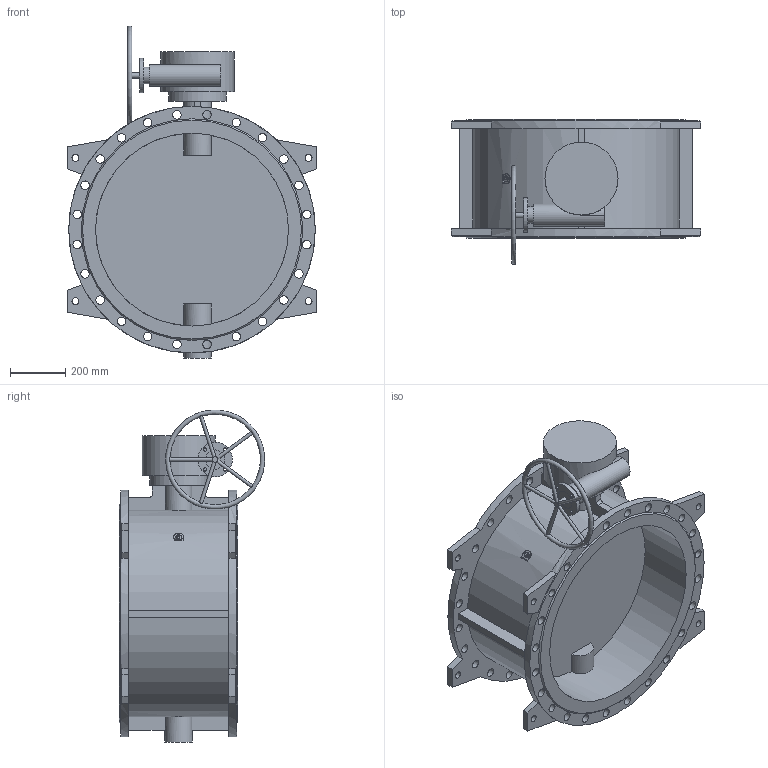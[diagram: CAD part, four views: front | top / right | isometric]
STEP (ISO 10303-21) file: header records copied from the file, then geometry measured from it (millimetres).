
FILE_DESCRIPTION(('STEP AP203'), '1');
FILE_NAME('Çàòâîð 023F.Z DN700 PN10_ìàõ', '', ('UNSPECIFIED'), ('UNSPECIFIED'), 'ASCON STEP Converter 1.6', 'ASCON Math Kernel', '');
FILE_SCHEMA(('CONFIG_CONTROL_DESIGN'));
Length unit declared in the file: millimetre
Bounding box: 906 x 526.93 x 1204.63 mm (x, y, z)
Volume: 71699818.1 mm3; surface area: 4307975.1 mm2
Topology: 1 solids, 1 shells, 197 faces, 536 edges, 358 vertices
Faces by surface type: cylinder 104, plane 90, cone 2, torus 1
Full cylindrical faces by diameter (mm): 12 x9, 18.5 x4, 20 x2, 23 x4, 25 x8, 31 x48, 60 x1, 70 x1, 80 x1, 100 x1, 125 x1, 210 x1, 265 x1, 700 x2, 895 x2
Entity records: 10982 total; most frequent: CARTESIAN_POINT 4421, DIRECTION 993, ORIENTED_EDGE 886, EDGE_CURVE 443, EDGE_LOOP 433, AXIS2_PLACEMENT_3D 406, VERTEX_POINT 356, FACE_BOUND 274
